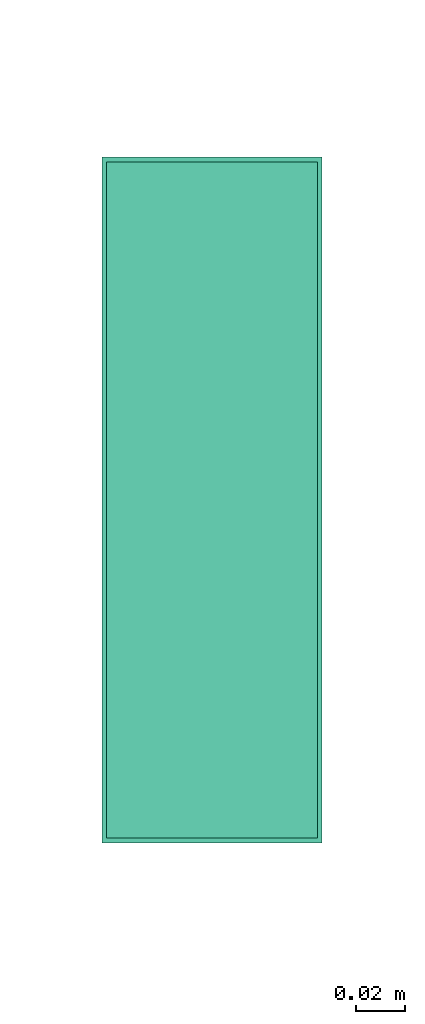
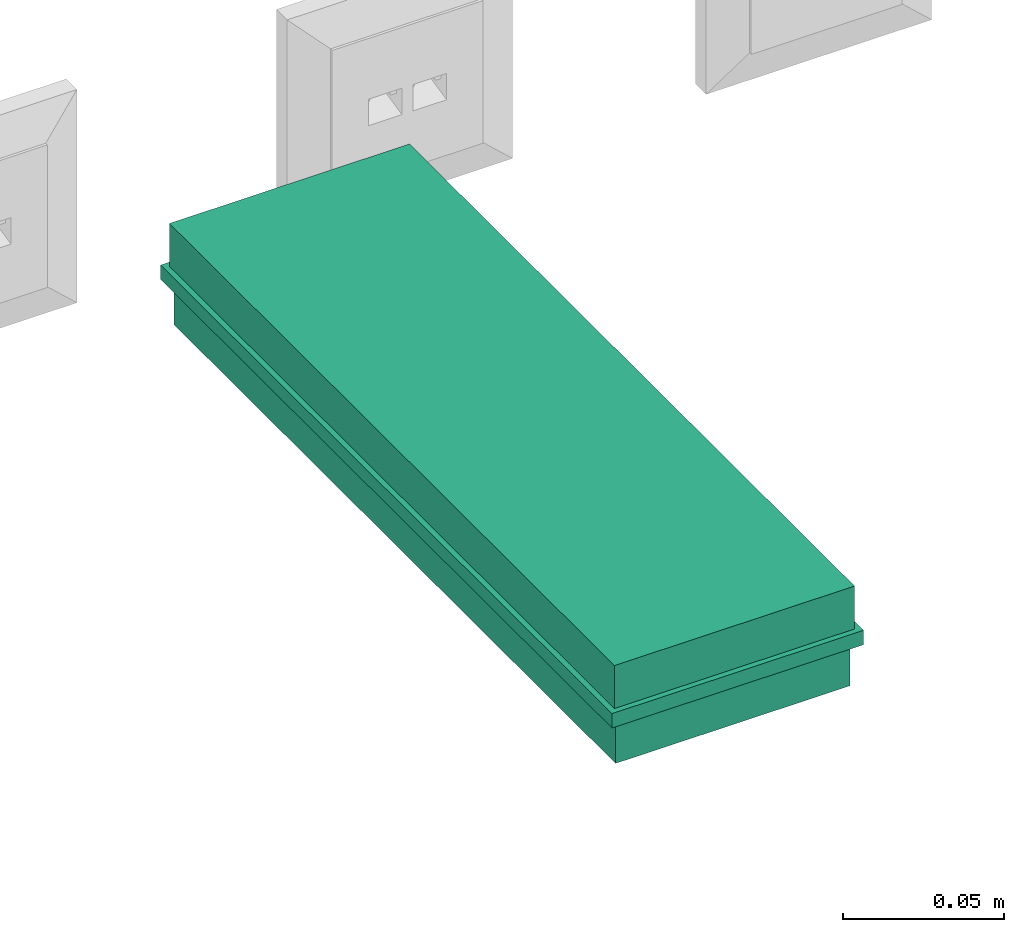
# One storey, part 103 of 146: 1 flow terminal.
"""IFC2X3 building model written with IfcOpenShell, lengths in metres."""

from ifc_helpers import new_model, entity, si_unit, converted_unit, derived_unit, direction, frame, origin, place, context, subcontext, project, spatial, face_set, surface_model, source, transform, mapped, material, material_list, type_object, type_shapes, element, save


model = new_model("IFC2X3")

# Units and contexts
model_context = context("Model", 3, precision=1e-05, world=origin(), true_north=direction((6.12303176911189e-17, 1.0)))
body_context = subcontext(model_context, "Body", "Model", "MODEL_VIEW")
ifc_project = project(units=[si_unit("LENGTHUNIT", "METRE"), si_unit("AREAUNIT", "SQUARE_METRE"), si_unit("VOLUMEUNIT", "CUBIC_METRE"), converted_unit("PLANEANGLEUNIT", "DEGREE", entity("IfcRatioMeasure", 0.0174532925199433), si_unit("PLANEANGLEUNIT", "RADIAN"), dimensions=[0, 0, 0, 0, 0, 0, 0]), si_unit("MASSUNIT", "GRAM", prefix="KILO"), derived_unit("MASSDENSITYUNIT", [(si_unit("MASSUNIT", "GRAM", prefix="KILO"), 1), (si_unit("LENGTHUNIT", "METRE"), -3)]), si_unit("TIMEUNIT", "SECOND"), si_unit("FREQUENCYUNIT", "HERTZ"), si_unit("THERMODYNAMICTEMPERATUREUNIT", "DEGREE_CELSIUS"), derived_unit("THERMALTRANSMITTANCEUNIT", [(si_unit("MASSUNIT", "GRAM", prefix="KILO"), 1), (si_unit("THERMODYNAMICTEMPERATUREUNIT", "KELVIN"), -1), (si_unit("TIMEUNIT", "SECOND"), -3)]), derived_unit("VOLUMETRICFLOWRATEUNIT", [(si_unit("LENGTHUNIT", "METRE"), 3), (si_unit("TIMEUNIT", "SECOND"), -1)]), si_unit("ELECTRICCURRENTUNIT", "AMPERE"), si_unit("ELECTRICVOLTAGEUNIT", "VOLT"), si_unit("POWERUNIT", "WATT"), si_unit("FORCEUNIT", "NEWTON"), si_unit("ILLUMINANCEUNIT", "LUX"), si_unit("LUMINOUSFLUXUNIT", "LUMEN"), si_unit("LUMINOUSINTENSITYUNIT", "CANDELA"), derived_unit("USERDEFINED", [(si_unit("MASSUNIT", "GRAM", prefix="KILO"), -1), (si_unit("LENGTHUNIT", "METRE"), -2), (si_unit("TIMEUNIT", "SECOND"), 3), (si_unit("LUMINOUSFLUXUNIT", "LUMEN"), 1)]), derived_unit("LINEARVELOCITYUNIT", [(si_unit("LENGTHUNIT", "METRE"), 1), (si_unit("TIMEUNIT", "SECOND"), -1)]), si_unit("PRESSUREUNIT", "PASCAL"), derived_unit("USERDEFINED", [(si_unit("LENGTHUNIT", "METRE"), -2), (si_unit("MASSUNIT", "GRAM", prefix="KILO"), 1), (si_unit("TIMEUNIT", "SECOND"), -2)])], contexts=[model_context])

# Site, building, storey
site_placement = place(None, origin())
site = spatial("IfcSite", under=ifc_project, at=site_placement, Name="Default", CompositionType="ELEMENT")
building_placement = place(site_placement, origin())
building = spatial("IfcBuilding", under=site, at=building_placement, CompositionType="ELEMENT")
storey_placement = place(building_placement, origin())
storey = spatial("IfcBuildingStorey", under=building, at=storey_placement, Name="S01", CompositionType="ELEMENT", Elevation=0.0)

# Flow terminal
ifc_material_1 = material(Name="Color RGB 225-225-149")
ifc_material_2 = material(Name="Color RGB 165-165-165")
ifc_material_list_1 = material_list([ifc_material_1, ifc_material_2])
ifc_material_list_2 = material_list([ifc_material_1, ifc_material_2])
light_fixture_type = type_object("IfcLightFixtureType", Name="BAEA Type 3", PredefinedType="NOTDEFINED", material=ifc_material_list_2)
shared_shape = source(origin(), body_context, "Body", "SurfaceModel", [
    surface_model("IfcFaceBasedSurfaceModel", [(0.0820000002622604, 0.0, 0.0350000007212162), (0.0800000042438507, -0.00141421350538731, 0.036414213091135), (0.0800000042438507, -0.00199999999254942, 0.0350000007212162), (0.0800000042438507, 0.0, 0.0369999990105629), (0.0800000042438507, 0.00141421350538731, 0.036414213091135), (0.0800000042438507, 0.00199999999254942, 0.0350000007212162), (0.0779999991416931, 0.0, 0.0350000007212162), (0.0800000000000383, 0.0, 0.0349999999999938), (0.0720000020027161, 0.0, 0.0350000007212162), (0.0700000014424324, -0.00141421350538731, 0.036414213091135), (0.0700000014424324, -0.00199999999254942, 0.0350000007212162), (0.0700000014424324, 0.0, 0.0369999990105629), (0.0700000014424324, 0.00141421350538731, 0.036414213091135), (0.0700000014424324, 0.00199999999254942, 0.0350000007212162), (0.0680000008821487, 0.0, 0.0350000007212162), (0.0700000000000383, 0.0, 0.034999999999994), (0.0619999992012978, 0.0, 0.0350000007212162), (0.0599999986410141, -0.00141421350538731, 0.036414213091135), (0.0599999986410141, -0.00199999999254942, 0.0350000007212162), (0.0599999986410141, 0.00141421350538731, 0.036414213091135), (0.0599999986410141, 0.0, 0.0369999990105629), (0.0599999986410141, 0.00199999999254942, 0.0350000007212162), (0.0579999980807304, 0.0, 0.0350000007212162), (0.0600000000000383, 0.0, 0.0349999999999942), (0.0520000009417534, 0.0, 0.0350000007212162), (0.0500000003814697, -0.00141421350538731, 0.036414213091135), (0.0500000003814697, -0.00199999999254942, 0.0350000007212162), (0.0500000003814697, 0.0, 0.0369999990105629), (0.0500000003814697, 0.00141421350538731, 0.036414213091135), (0.0500000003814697, 0.00199999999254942, 0.0350000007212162), (0.0479999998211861, 0.0, 0.0350000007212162), (0.0500000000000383, 0.0, 0.0349999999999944), (0.0219999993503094, 0.0, 0.0350000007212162), (0.0200000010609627, -0.00141421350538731, 0.036414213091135), (0.0200000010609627, -0.00199999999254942, 0.0350000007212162), (0.0200000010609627, 0.0, 0.0369999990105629), (0.0200000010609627, 0.00141421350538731, 0.036414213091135), (0.0200000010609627, 0.00199999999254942, 0.0350000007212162), (0.018000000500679, 0.0, 0.0350000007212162), (0.0200000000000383, 0.0, 0.034999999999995), (0.0419999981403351, 0.0, 0.0350000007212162), (0.0400000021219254, -0.00141421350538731, 0.036414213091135), (0.0400000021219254, -0.00199999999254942, 0.0350000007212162), (0.0400000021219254, 0.0, 0.0369999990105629), (0.0400000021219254, 0.00141421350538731, 0.036414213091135), (0.0400000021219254, 0.00199999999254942, 0.0350000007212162), (0.0379999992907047, 0.0, 0.0350000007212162), (0.0400000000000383, 0.0, 0.0349999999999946), (0.0319999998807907, 0.0, 0.0350000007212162), (0.0299999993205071, -0.00141421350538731, 0.036414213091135), (0.0299999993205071, -0.00199999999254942, 0.0350000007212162), (0.0299999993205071, 0.00141421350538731, 0.036414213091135), (0.0299999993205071, 0.0, 0.0369999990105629), (0.0299999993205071, 0.00199999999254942, 0.0350000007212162), (0.0280000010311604, 0.0, 0.0350000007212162), (0.0300000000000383, 0.0, 0.0349999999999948), (0.0119999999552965, 0.0, 0.0350000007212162), (0.0100000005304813, -0.00141421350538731, 0.036414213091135), (0.0100000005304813, -0.00199999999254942, 0.0350000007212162), (0.0100000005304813, 0.0, 0.0369999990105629), (0.0100000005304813, 0.00141421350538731, 0.036414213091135), (0.0100000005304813, 0.00199999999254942, 0.0350000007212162), (0.00799999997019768, 0.0, 0.0350000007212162), (0.0100000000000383, 0.0, 0.0349999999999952), (-0.0800000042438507, -0.00199999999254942, 0.0350000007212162), (-0.0800000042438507, -0.00141421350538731, 0.036414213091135), (-0.0820000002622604, 0.0, 0.0350000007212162), (-0.0800000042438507, 0.00141421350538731, 0.036414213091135), (-0.0809421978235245, 0.0, 0.0367641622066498), (-0.0800000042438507, 0.0, 0.0369999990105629), (-0.0800000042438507, 0.00199999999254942, 0.0350000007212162), (-0.0779999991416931, 0.0, 0.0350000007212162), (-0.0800000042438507, 0.000535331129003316, 0.0367782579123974), (-0.0800000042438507, -0.00177825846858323, 0.0355353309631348), (-0.0800000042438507, -0.000535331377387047, 0.0367782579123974), (-0.0799999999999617, 0.0, 0.0349999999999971), (-0.0700000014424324, -0.00199999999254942, 0.0350000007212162), (-0.0700000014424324, -0.00141421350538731, 0.036414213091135), (-0.0720000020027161, 0.0, 0.0350000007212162), (-0.0700000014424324, 0.00141421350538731, 0.036414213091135), (-0.0709421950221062, 0.0, 0.0367641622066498), (-0.0700000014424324, 0.0, 0.0369999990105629), (-0.0700000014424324, 0.00199999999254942, 0.0350000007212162), (-0.0680000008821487, 0.0, 0.0350000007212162), (-0.0700000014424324, 0.000535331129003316, 0.0367782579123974), (-0.0700000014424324, -0.00177825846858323, 0.0355353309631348), (-0.0700000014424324, -0.000535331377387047, 0.0367782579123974), (-0.0699999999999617, 0.0, 0.0349999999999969), (-0.0599999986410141, -0.00199999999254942, 0.0350000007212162), (-0.0599999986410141, -0.00141421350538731, 0.036414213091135), (-0.0619999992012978, 0.0, 0.0350000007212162), (-0.0599999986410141, 0.00141421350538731, 0.036414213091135), (-0.0609421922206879, 0.0, 0.0367641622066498), (-0.0599999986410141, 0.0, 0.0369999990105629), (-0.0599999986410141, 0.00199999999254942, 0.0350000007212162), (-0.0579999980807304, 0.0, 0.0350000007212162), (-0.0599999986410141, -0.00177825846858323, 0.0355353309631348), (-0.0599999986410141, 0.000535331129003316, 0.0367782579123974), (-0.0599999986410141, -0.000535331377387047, 0.0367782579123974), (-0.0599999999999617, 0.0, 0.0349999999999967), (-0.0500000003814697, -0.00199999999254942, 0.0350000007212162), (-0.0500000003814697, -0.00141421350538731, 0.036414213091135), (-0.0520000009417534, 0.0, 0.0350000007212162), (-0.0500000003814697, 0.00141421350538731, 0.036414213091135), (-0.0509421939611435, 0.0, 0.0367641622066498), (-0.0500000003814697, 0.0, 0.0369999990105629), (-0.0500000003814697, 0.00199999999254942, 0.0350000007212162), (-0.0479999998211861, 0.0, 0.0350000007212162), (-0.0500000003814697, 0.000535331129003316, 0.0367782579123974), (-0.0500000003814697, -0.00177825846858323, 0.0355353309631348), (-0.0500000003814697, -0.000535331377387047, 0.0367782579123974), (-0.0499999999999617, 0.0, 0.0349999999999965), (-0.0200000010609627, -0.00199999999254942, 0.0350000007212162), (-0.0200000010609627, -0.00141421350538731, 0.036414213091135), (-0.0219999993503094, 0.0, 0.0350000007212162), (-0.0200000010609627, 0.00141421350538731, 0.036414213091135), (-0.0209421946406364, 0.0, 0.0367641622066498), (-0.0200000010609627, 0.0, 0.0369999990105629), (-0.0200000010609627, 0.00199999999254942, 0.0350000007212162), (-0.018000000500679, 0.0, 0.0350000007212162), (-0.0200000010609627, 0.000535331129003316, 0.0367782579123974), (-0.0200000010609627, -0.00177825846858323, 0.0355353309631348), (-0.0200000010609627, -0.000535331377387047, 0.0367782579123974), (-0.0199999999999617, 0.0, 0.0349999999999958), (-0.0400000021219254, -0.00199999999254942, 0.0350000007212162), (-0.0400000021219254, -0.00141421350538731, 0.036414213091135), (-0.0419999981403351, 0.0, 0.0350000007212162), (-0.0400000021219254, 0.00141421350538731, 0.036414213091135), (-0.0409421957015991, 0.0, 0.0367641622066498), (-0.0400000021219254, 0.0, 0.0369999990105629), (-0.0400000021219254, 0.00199999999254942, 0.0350000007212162), (-0.0379999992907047, 0.0, 0.0350000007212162), (-0.0400000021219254, 0.000535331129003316, 0.0367782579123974), (-0.0400000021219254, -0.00177825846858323, 0.0355353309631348), (-0.0400000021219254, -0.000535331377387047, 0.0367782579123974), (-0.0399999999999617, 0.0, 0.0349999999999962), (-0.0299999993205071, -0.00199999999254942, 0.0350000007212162), (-0.0299999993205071, -0.00141421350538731, 0.036414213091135), (-0.0319999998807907, 0.0, 0.0350000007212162), (-0.0299999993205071, 0.00141421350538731, 0.036414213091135), (-0.0309421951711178, 0.0, 0.0367641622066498), (-0.0299999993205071, 0.0, 0.0369999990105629), (-0.0299999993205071, 0.00199999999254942, 0.0350000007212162), (-0.0280000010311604, 0.0, 0.0350000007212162), (-0.0299999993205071, -0.00177825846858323, 0.0355353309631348), (-0.0299999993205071, 0.000535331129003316, 0.0367782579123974), (-0.0299999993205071, -0.000535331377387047, 0.0367782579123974), (-0.0299999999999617, 0.0, 0.034999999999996), (-0.0100000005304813, -0.00199999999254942, 0.0350000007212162), (-0.0100000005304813, -0.00141421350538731, 0.036414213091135), (-0.0119999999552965, 0.0, 0.0350000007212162), (-0.0100000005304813, 0.00141421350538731, 0.036414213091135), (-0.0109421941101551, 0.0, 0.0367641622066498), (-0.0100000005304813, 0.0, 0.0369999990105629), (-0.0100000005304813, 0.00199999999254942, 0.0350000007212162), (-0.00799999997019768, 0.0, 0.0350000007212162), (-0.0100000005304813, 0.000535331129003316, 0.0367782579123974), (-0.0100000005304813, -0.00177825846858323, 0.0355353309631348), (-0.0100000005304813, -0.000535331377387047, 0.0367782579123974), (-0.00999999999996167, 0.0, 0.0349999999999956), (0.0, -0.00199999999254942, 0.0350000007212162), (0.0, -0.00141421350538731, 0.036414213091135), (-0.00199999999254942, 0.0, 0.0350000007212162), (0.0, 0.00141421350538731, 0.036414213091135), (-0.000942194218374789, 0.0, 0.0367641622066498), (0.0, 0.0, 0.0369999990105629), (0.0, 0.00199999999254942, 0.0350000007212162), (0.00199999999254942, 0.0, 0.0350000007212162), (0.0, -0.00177825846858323, 0.0355353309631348), (0.0, 0.000535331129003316, 0.0367782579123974), (0.0, -0.000535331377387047, 0.0367782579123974), (0.0, 0.0, 0.0349999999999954)], [face_set([[[0, 1, 2]], [[3, 1, 4]], [[5, 4, 0]], [[4, 1, 0]], [[6, 4, 5]], [[1, 4, 3]], [[2, 1, 6]], [[1, 4, 6]], [[5, 0, 2, 7]], [[2, 6, 5, 7]]]), face_set([[[8, 9, 10]], [[11, 9, 12]], [[13, 12, 8]], [[12, 9, 8]], [[14, 12, 13]], [[9, 12, 11]], [[10, 9, 14]], [[9, 12, 14]], [[13, 8, 10, 15]], [[10, 14, 13, 15]]]), face_set([[[16, 17, 18]], [[19, 17, 20]], [[21, 19, 16]], [[19, 17, 16]], [[22, 19, 21]], [[20, 19, 17]], [[18, 17, 22]], [[17, 19, 22]], [[21, 16, 18, 23]], [[18, 22, 21, 23]]]), face_set([[[24, 25, 26]], [[27, 25, 28]], [[29, 28, 24]], [[28, 25, 24]], [[30, 28, 29]], [[25, 28, 27]], [[26, 25, 30]], [[25, 28, 30]], [[29, 24, 26, 31]], [[26, 30, 29, 31]]]), face_set([[[32, 33, 34]], [[35, 33, 36]], [[37, 36, 32]], [[36, 33, 32]], [[38, 36, 37]], [[33, 36, 35]], [[34, 33, 38]], [[33, 36, 38]], [[37, 32, 34, 39]], [[34, 38, 37, 39]]]), face_set([[[40, 41, 42]], [[43, 41, 44]], [[45, 44, 40]], [[44, 41, 40]], [[46, 44, 45]], [[41, 44, 43]], [[42, 41, 46]], [[41, 44, 46]], [[45, 40, 42, 47]], [[42, 46, 45, 47]]]), face_set([[[48, 49, 50]], [[51, 49, 52]], [[53, 51, 48]], [[51, 49, 48]], [[54, 51, 53]], [[52, 51, 49]], [[50, 49, 54]], [[49, 51, 54]], [[53, 48, 50, 55]], [[50, 54, 53, 55]]]), face_set([[[56, 57, 58]], [[59, 57, 60]], [[61, 60, 56]], [[60, 57, 56]], [[62, 60, 61]], [[57, 60, 59]], [[58, 57, 62]], [[57, 60, 62]], [[61, 56, 58, 63]], [[58, 62, 61, 63]]]), face_set([[[64, 65, 66]], [[67, 66, 65]], [[68, 69, 67]], [[67, 70, 66]], [[68, 65, 67]], [[69, 68, 65]], [[71, 70, 67]], [[72, 67, 73, 65]], [[69, 72, 65, 74]], [[67, 73, 71]], [[73, 64, 71]], [[75, 64, 66, 70]], [[75, 70, 71, 64]]]), face_set([[[76, 77, 78]], [[79, 78, 77]], [[80, 81, 79]], [[79, 82, 78]], [[80, 77, 79]], [[81, 80, 77]], [[83, 82, 79]], [[84, 79, 85, 77]], [[81, 84, 77, 86]], [[79, 85, 83]], [[85, 76, 83]], [[87, 76, 78, 82]], [[87, 82, 83, 76]]]), face_set([[[88, 89, 90]], [[91, 90, 89]], [[92, 93, 91]], [[91, 94, 90]], [[92, 89, 91]], [[93, 92, 89]], [[95, 94, 91]], [[89, 96, 91, 97]], [[98, 89, 97, 93]], [[91, 96, 95]], [[96, 88, 95]], [[99, 88, 90, 94]], [[99, 94, 95, 88]]]), face_set([[[100, 101, 102]], [[103, 102, 101]], [[104, 105, 103]], [[103, 106, 102]], [[104, 101, 103]], [[105, 104, 101]], [[107, 106, 103]], [[108, 103, 109, 101]], [[105, 108, 101, 110]], [[103, 109, 107]], [[109, 100, 107]], [[111, 100, 102, 106]], [[111, 106, 107, 100]]]), face_set([[[112, 113, 114]], [[115, 114, 113]], [[116, 117, 115]], [[115, 118, 114]], [[116, 113, 115]], [[117, 116, 113]], [[119, 118, 115]], [[120, 115, 121, 113]], [[117, 120, 113, 122]], [[115, 121, 119]], [[121, 112, 119]], [[123, 112, 114, 118]], [[123, 118, 119, 112]]]), face_set([[[124, 125, 126]], [[127, 126, 125]], [[128, 129, 127]], [[127, 130, 126]], [[128, 125, 127]], [[129, 128, 125]], [[131, 130, 127]], [[132, 127, 133, 125]], [[129, 132, 125, 134]], [[127, 133, 131]], [[133, 124, 131]], [[135, 124, 126, 130]], [[135, 130, 131, 124]]]), face_set([[[136, 137, 138]], [[139, 138, 137]], [[140, 141, 139]], [[139, 142, 138]], [[140, 137, 139]], [[141, 140, 137]], [[143, 142, 139]], [[137, 144, 139, 145]], [[146, 137, 145, 141]], [[139, 144, 143]], [[144, 136, 143]], [[147, 136, 138, 142]], [[147, 142, 143, 136]]]), face_set([[[148, 149, 150]], [[151, 150, 149]], [[152, 153, 151]], [[151, 154, 150]], [[152, 149, 151]], [[153, 152, 149]], [[155, 154, 151]], [[156, 151, 157, 149]], [[153, 156, 149, 158]], [[151, 157, 155]], [[157, 148, 155]], [[159, 148, 150, 154]], [[159, 154, 155, 148]]]), face_set([[[160, 161, 162]], [[163, 162, 161]], [[164, 165, 163]], [[163, 166, 162]], [[164, 161, 163]], [[165, 164, 161]], [[167, 166, 163]], [[161, 168, 163, 169]], [[170, 161, 169, 165]], [[163, 168, 167]], [[168, 160, 167]], [[171, 160, 162, 166]], [[171, 166, 167, 160]]])]),
    surface_model("IfcFaceBasedSurfaceModel", [(-0.137999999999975, 0.0429999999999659, 0.0), (0.138000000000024, 0.042999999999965, 0.0), (0.138000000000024, -0.0430000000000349, 0.0), (-0.137999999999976, -0.0430000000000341, 0.0), (-0.137999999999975, 0.0429999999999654, 0.0162598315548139), (0.138000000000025, 0.0429999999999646, 0.0162598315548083), (0.138000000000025, -0.0430000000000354, 0.0162598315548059), (-0.137999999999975, -0.0430000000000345, 0.0162598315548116), (0.0855000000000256, 0.00499999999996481, 0.0349999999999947), (0.0867940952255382, 0.00482962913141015, 0.0349999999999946), (0.0880000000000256, 0.00433012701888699, 0.0349999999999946), (0.0890355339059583, 0.00353553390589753, 0.0349999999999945), (0.0898301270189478, 0.00249999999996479, 0.0349999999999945), (0.0903296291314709, 0.00129409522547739, 0.0349999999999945), (0.0905000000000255, 0.0, 0.0349999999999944), (0.0903296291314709, -0.00129409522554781, 0.0349999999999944), (0.0898301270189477, -0.0025000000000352, 0.0349999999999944), (0.0890355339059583, -0.00353553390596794, 0.0349999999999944), (0.0880000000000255, -0.00433012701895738, 0.0349999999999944), (0.0867940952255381, -0.00482962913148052, 0.0349999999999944), (0.0855000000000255, -0.00500000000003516, 0.0349999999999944), (-0.0854999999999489, -0.00500000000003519, 0.0349999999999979), (-0.0867940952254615, -0.00482962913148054, 0.0349999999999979), (-0.0879999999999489, -0.00433012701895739, 0.034999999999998), (-0.0890355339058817, -0.00353553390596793, 0.034999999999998), (-0.0898301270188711, -0.0025000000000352, 0.0349999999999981), (-0.0903296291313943, -0.0012940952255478, 0.0349999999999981), (-0.0904999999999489, 0.0, 0.0349999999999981), (-0.0903296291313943, 0.0012940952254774, 0.0349999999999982), (-0.0898301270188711, 0.0024999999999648, 0.0349999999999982), (-0.0890355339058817, 0.00353553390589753, 0.0349999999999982), (-0.0879999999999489, 0.00433012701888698, 0.0349999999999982), (-0.0867940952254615, 0.00482962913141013, 0.0349999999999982), (-0.085499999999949, 0.00499999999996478, 0.0349999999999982), (0.0855000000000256, -0.00500000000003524, 0.037999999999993), (-0.0854999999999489, -0.00500000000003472, 0.0379999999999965), (-0.0854999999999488, 0.00499999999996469, 0.0379999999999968), (0.0855000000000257, 0.00499999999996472, 0.0379999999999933), (-0.136999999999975, 0.0419999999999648, 0.0379999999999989), (0.137000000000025, 0.041999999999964, 0.0379999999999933), (0.137000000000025, -0.042000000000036, 0.0379999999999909), (-0.136999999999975, -0.0420000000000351, 0.0379999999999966), (0.0867940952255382, -0.0048296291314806, 0.037999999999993), (0.0880000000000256, -0.00433012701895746, 0.037999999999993), (0.0890355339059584, -0.00353553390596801, 0.037999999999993), (0.0898301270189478, -0.00250000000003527, 0.037999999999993), (0.090329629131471, -0.00129409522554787, 0.037999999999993), (0.0905000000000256, 0.0, 0.0379999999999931), (0.090329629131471, 0.00129409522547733, 0.0379999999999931), (0.0898301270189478, 0.00249999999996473, 0.0379999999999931), (0.0890355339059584, 0.00353553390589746, 0.0379999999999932), (0.0880000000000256, 0.00433012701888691, 0.0379999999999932), (0.0867940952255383, 0.00482962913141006, 0.0379999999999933), (-0.0867940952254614, 0.00482962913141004, 0.0379999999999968), (-0.0879999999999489, 0.0043301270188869, 0.0379999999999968), (-0.0890355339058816, 0.00353553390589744, 0.0379999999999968), (-0.0898301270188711, 0.0024999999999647, 0.0379999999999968), (-0.0903296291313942, 0.00129409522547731, 0.0379999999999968), (-0.0904999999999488, 0.0, 0.0379999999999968), (-0.0903296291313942, -0.0012940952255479, 0.0379999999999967), (-0.0898301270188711, -0.00250000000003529, 0.0379999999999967), (-0.0890355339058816, -0.00353553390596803, 0.0379999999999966), (-0.0879999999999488, -0.00433012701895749, 0.0379999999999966), (-0.0867940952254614, -0.00482962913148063, 0.0379999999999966), (-0.00799999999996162, 0.0169999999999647, 0.0379999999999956), (0.00800000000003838, 0.0169999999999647, 0.0379999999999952), (0.0080000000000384, 0.0229999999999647, 0.0379999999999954), (-0.00799999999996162, 0.0229999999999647, 0.0379999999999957), (-0.136999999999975, 0.0419999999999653, 0.0217057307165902), (0.137000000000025, 0.0419999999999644, 0.0217057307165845), (0.137000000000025, -0.0420000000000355, 0.0217057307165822), (-0.136999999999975, -0.0420000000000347, 0.0217057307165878), (-0.00799999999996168, 0.0229999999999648, 0.0349999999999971), (0.00800000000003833, 0.0229999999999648, 0.0349999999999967), (0.00800000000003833, 0.0169999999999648, 0.0349999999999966), (-0.00799999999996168, 0.0169999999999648, 0.0349999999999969), (-0.139999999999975, -0.0450000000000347, 0.0217057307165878), (-0.139999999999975, 0.0449999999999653, 0.0217057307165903), (0.140000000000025, 0.0449999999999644, 0.0217057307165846), (0.140000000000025, -0.0450000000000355, 0.0217057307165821), (-0.139999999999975, -0.0450000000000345, 0.0162598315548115), (-0.139999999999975, 0.0449999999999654, 0.016259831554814), (0.140000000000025, 0.0449999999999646, 0.0162598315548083), (0.140000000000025, -0.0450000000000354, 0.0162598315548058)], [face_set([[[0, 1, 2, 3]], [[4, 5, 6, 7]], [[7, 4, 0, 3]], [[6, 7, 3, 2]], [[5, 6, 2, 1]], [[4, 5, 1, 0]]]), face_set([[[8, 9, 10, 11, 12, 13, 14, 15, 16, 17, 18, 19, 20, 21, 22, 23, 24, 25, 26, 27, 28, 29, 30, 31, 32, 33]], [[20, 34, 35, 21]], [[33, 36, 37, 8]], [[38, 39, 40, 41], [34, 42, 43, 44, 45, 46, 47, 48, 49, 50, 51, 52, 37, 36, 53, 54, 55, 56, 57, 58, 59, 60, 61, 62, 63, 35], [64, 65, 66, 67]], [[68, 69, 70, 71]], [[41, 38, 68, 71]], [[40, 41, 71, 70]], [[39, 40, 70, 69]], [[38, 39, 69, 68]], [[36, 33, 32, 53]], [[53, 32, 31, 54]], [[55, 30, 29, 56]], [[54, 31, 30, 55]], [[56, 29, 28, 57]], [[27, 58, 57, 28]], [[58, 27, 26, 59]], [[59, 26, 25, 60]], [[61, 24, 23, 62]], [[60, 25, 24, 61]], [[62, 23, 22, 63]], [[21, 35, 63, 22]], [[34, 20, 19, 42]], [[42, 19, 18, 43]], [[44, 17, 16, 45]], [[43, 18, 17, 44]], [[45, 16, 15, 46]], [[14, 47, 46, 15]], [[47, 14, 13, 48]], [[48, 13, 12, 49]], [[50, 11, 10, 51]], [[49, 12, 11, 50]], [[51, 10, 9, 52]], [[8, 37, 52, 9]], [[72, 73, 74, 75]], [[75, 64, 67, 72]], [[74, 75, 64, 65]], [[73, 66, 65, 74]], [[72, 67, 66, 73]]]), face_set([[[76, 77, 78, 79]], [[80, 81, 82, 83]], [[79, 76, 80, 83]], [[78, 79, 83, 82]], [[77, 78, 82, 81]], [[76, 77, 81, 80]]])]),
])
type_shapes(light_fixture_type, [shared_shape])
flow_terminal_placement = place(building_placement, frame((65.2423872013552, -189.208069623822, 3.37), z_axis=(0.0, 0.0, -1.0), x_axis=(0.0, -1.0, 0.0)))
element("IfcFlowTerminal", 1, at=flow_terminal_placement, inside=storey, type_object=light_fixture_type, material=ifc_material_list_1, Name="II_PREF_BAEA:BAEA Type 3", ObjectType="II_PREF_BAEA:BAEA Type 3", context=body_context, shape_type="MappedRepresentation", body=[
    mapped(shared_shape, transform((0.0, 0.0, 0.0), scale=1.0)),
])

save(model, "model.ifc")
